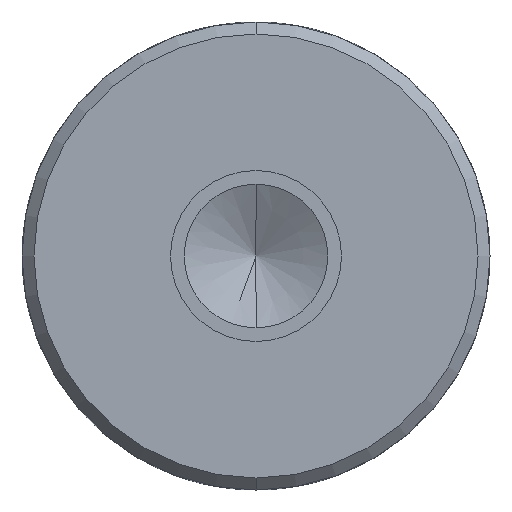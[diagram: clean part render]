
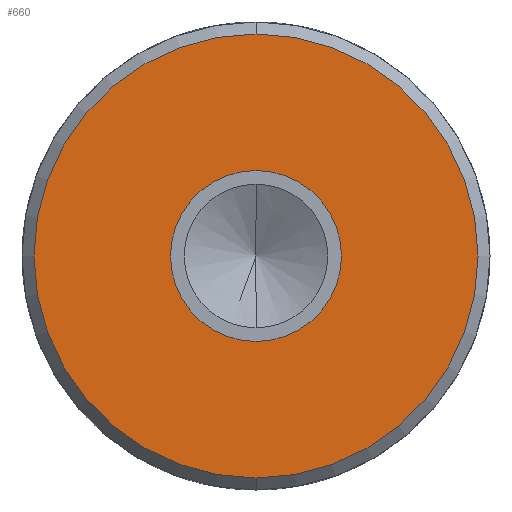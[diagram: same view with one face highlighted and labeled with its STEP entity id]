
A CAD part, front view. The second image highlights one B-rep face of the part: STEP entity #660.
In plain terms, the highlighted planar face has unit normal (0, -1, 0).
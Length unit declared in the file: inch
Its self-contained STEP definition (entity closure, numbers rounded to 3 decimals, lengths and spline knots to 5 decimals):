
#319 = VERTEX_POINT ( 'NONE', #1899 ) ;
#321 = EDGE_CURVE ( 'NONE', #319, #329, #1959, .T. ) ;
#322 = VERTEX_POINT ( 'NONE', #1954 ) ;
#329 = VERTEX_POINT ( 'NONE', #1947 ) ;
#346 = EDGE_CURVE ( 'NONE', #347, #322, #1973, .T. ) ;
#347 = VERTEX_POINT ( 'NONE', #1968 ) ;
#618 = ORIENTED_EDGE ( 'NONE', *, *, #619, .F. ) ;
#619 = EDGE_CURVE ( 'NONE', #329, #319, #2721, .T. ) ;
#629 = EDGE_LOOP ( 'NONE', ( #630, #653 ) ) ;
#630 = ORIENTED_EDGE ( 'NONE', *, *, #631, .T. ) ;
#631 = EDGE_CURVE ( 'NONE', #322, #347, #2798, .T. ) ;
#634 = ORIENTED_EDGE ( 'NONE', *, *, #321, .F. ) ;
#653 = ORIENTED_EDGE ( 'NONE', *, *, #346, .T. ) ;
#660 = ADVANCED_FACE ( 'NONE', ( #2822, #2817 ), #2816, .F. ) ;
#703 = EDGE_LOOP ( 'NONE', ( #618, #634 ) ) ;
#1899 = CARTESIAN_POINT ( 'NONE',  ( 0., 0., 0.4275 ) ) ;
#1947 = CARTESIAN_POINT ( 'NONE',  ( 0., 0., -0.4275 ) ) ;
#1954 = CARTESIAN_POINT ( 'NONE',  ( 0., 0., 1.11 ) ) ;
#1955 = DIRECTION ( 'NONE',  ( 0., 0., -1. ) ) ;
#1956 = DIRECTION ( 'NONE',  ( 0., -1., 0. ) ) ;
#1957 = CARTESIAN_POINT ( 'NONE',  ( 0., 0., 0. ) ) ;
#1958 = AXIS2_PLACEMENT_3D ( 'NONE', #1957, #1956, #1955 ) ;
#1959 = CIRCLE ( 'NONE', #1958, 0.4275 ) ;
#1968 = CARTESIAN_POINT ( 'NONE',  ( 0., 0., -1.11 ) ) ;
#1969 = DIRECTION ( 'NONE',  ( 0., 0., 1. ) ) ;
#1970 = DIRECTION ( 'NONE',  ( 0., -1., 0. ) ) ;
#1971 = CARTESIAN_POINT ( 'NONE',  ( 0., 0., 0. ) ) ;
#1972 = AXIS2_PLACEMENT_3D ( 'NONE', #1971, #1970, #1969 ) ;
#1973 = CIRCLE ( 'NONE', #1972, 1.11 ) ;
#2716 = CARTESIAN_POINT ( 'NONE',  ( 0., 0., 0. ) ) ;
#2718 = DIRECTION ( 'NONE',  ( 0., 0., -1. ) ) ;
#2719 = DIRECTION ( 'NONE',  ( 0., -1., 0. ) ) ;
#2720 = AXIS2_PLACEMENT_3D ( 'NONE', #2716, #2719, #2718 ) ;
#2721 = CIRCLE ( 'NONE', #2720, 0.4275 ) ;
#2794 = DIRECTION ( 'NONE',  ( 0., 0., 1. ) ) ;
#2795 = DIRECTION ( 'NONE',  ( 0., -1., 0. ) ) ;
#2796 = CARTESIAN_POINT ( 'NONE',  ( 0., 0., 0. ) ) ;
#2797 = AXIS2_PLACEMENT_3D ( 'NONE', #2796, #2795, #2794 ) ;
#2798 = CIRCLE ( 'NONE', #2797, 1.11 ) ;
#2812 = DIRECTION ( 'NONE',  ( 0., 0., 1. ) ) ;
#2813 = DIRECTION ( 'NONE',  ( 0., 1., 0. ) ) ;
#2814 = AXIS2_PLACEMENT_3D ( 'NONE', #2815, #2813, #2812 ) ;
#2815 = CARTESIAN_POINT ( 'NONE',  ( 0., 0., 0. ) ) ;
#2816 = PLANE ( 'NONE',  #2814 ) ;
#2817 = FACE_OUTER_BOUND ( 'NONE', #629, .T. ) ;
#2822 = FACE_BOUND ( 'NONE', #703, .T. ) ;
